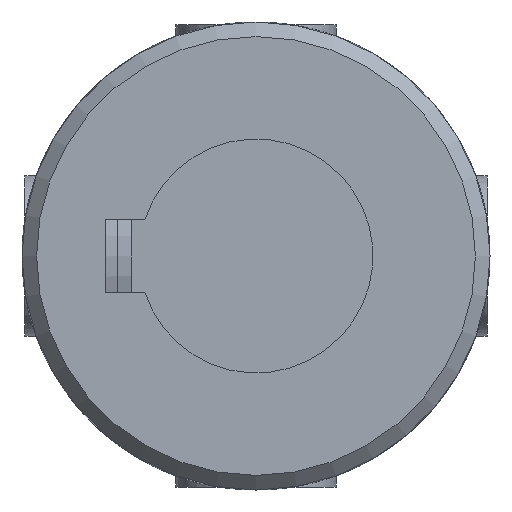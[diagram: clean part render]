
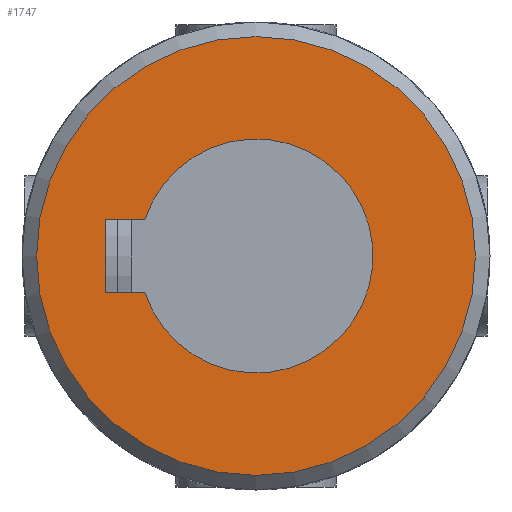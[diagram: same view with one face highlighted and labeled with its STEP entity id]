
A CAD part, front view. The second image highlights one B-rep face of the part: STEP entity #1747.
In plain terms, the highlighted planar face has unit normal (0, -1, 0).
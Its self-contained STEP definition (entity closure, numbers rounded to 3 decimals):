
#110=LINE('',#3355,#167);
#115=LINE('',#3372,#172);
#116=LINE('',#3381,#173);
#167=VECTOR('',#2319,2.701);
#172=VECTOR('',#2330,2.701);
#173=VECTOR('',#2333,5.);
#223=PLANE('',#1934);
#384=FACE_BOUND('',#621,.T.);
#474=FACE_OUTER_BOUND('',#620,.T.);
#620=EDGE_LOOP('',(#1520));
#621=EDGE_LOOP('',(#1521,#1522,#1523,#1524));
#717=CIRCLE('',#1922,8.);
#722=CIRCLE('',#1932,15.);
#858=VERTEX_POINT('',#3344);
#859=VERTEX_POINT('',#3346);
#861=VERTEX_POINT('',#3354);
#867=VERTEX_POINT('',#3370);
#869=VERTEX_POINT('',#3387);
#1074=EDGE_CURVE('',#859,#858,#717,.T.);
#1077=EDGE_CURVE('',#861,#859,#110,.T.);
#1085=EDGE_CURVE('',#858,#867,#115,.T.);
#1087=EDGE_CURVE('',#867,#861,#116,.T.);
#1090=EDGE_CURVE('',#869,#869,#722,.T.);
#1520=ORIENTED_EDGE('',*,*,#1090,.F.);
#1521=ORIENTED_EDGE('',*,*,#1085,.T.);
#1522=ORIENTED_EDGE('',*,*,#1087,.T.);
#1523=ORIENTED_EDGE('',*,*,#1077,.T.);
#1524=ORIENTED_EDGE('',*,*,#1074,.T.);
#1747=ADVANCED_FACE('',(#474,#384),#223,.F.);
#1922=AXIS2_PLACEMENT_3D('',#3347,#2314,#2315);
#1932=AXIS2_PLACEMENT_3D('',#3388,#2342,#2343);
#1934=AXIS2_PLACEMENT_3D('',#3600,#2350,#2351);
#2314=DIRECTION('center_axis',(0.,1.,0.));
#2315=DIRECTION('ref_axis',(-0.313,0.,0.95));
#2319=DIRECTION('',(0.,0.,1.));
#2330=DIRECTION('',(0.,0.,-1.));
#2333=DIRECTION('',(-1.,0.,0.));
#2342=DIRECTION('center_axis',(0.,1.,0.));
#2343=DIRECTION('ref_axis',(1.,0.,0.));
#2350=DIRECTION('center_axis',(0.,1.,0.));
#2351=DIRECTION('ref_axis',(0.,0.,1.));
#3344=CARTESIAN_POINT('',(2.5,-42.,-7.599));
#3346=CARTESIAN_POINT('',(-2.5,-42.,-7.599));
#3347=CARTESIAN_POINT('Origin',(0.,-42.,0.));
#3354=CARTESIAN_POINT('',(-2.5,-42.,-10.3));
#3355=CARTESIAN_POINT('',(-2.5,-42.,-5.15));
#3370=CARTESIAN_POINT('',(2.5,-42.,-10.3));
#3372=CARTESIAN_POINT('',(2.5,-42.,-3.8));
#3381=CARTESIAN_POINT('',(1.25,-42.,-10.3));
#3387=CARTESIAN_POINT('',(-15.,-42.,0.));
#3388=CARTESIAN_POINT('Origin',(0.,-42.,0.));
#3600=CARTESIAN_POINT('Origin',(0.,-42.,0.));
